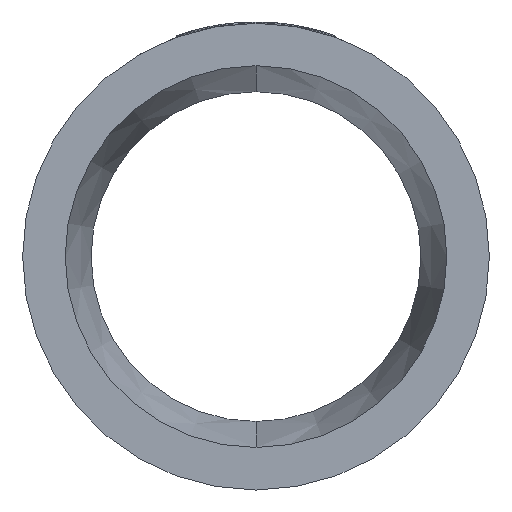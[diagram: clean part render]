
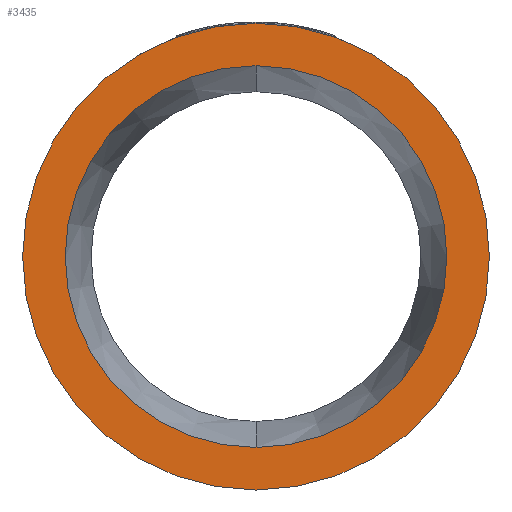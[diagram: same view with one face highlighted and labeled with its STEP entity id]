
A CAD part, left-side view. The second image highlights one B-rep face of the part: STEP entity #3435.
In plain terms, the highlighted planar face has unit normal (-1, 0, 0).
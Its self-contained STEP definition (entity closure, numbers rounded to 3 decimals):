
#3 = FACE_BOUND ( 'NONE', #861, .T. ) ;
#50 = FACE_OUTER_BOUND ( 'NONE', #2683, .T. ) ;
#164 = DIRECTION ( 'NONE',  ( 0., 0., 1. ) ) ;
#173 = DIRECTION ( 'NONE',  ( -1., 0., 0. ) ) ;
#175 = CARTESIAN_POINT ( 'NONE',  ( 0., 0., 0. ) ) ;
#189 = DIRECTION ( 'NONE',  ( 0., 0., 1. ) ) ;
#196 = AXIS2_PLACEMENT_3D ( 'NONE', #420, #414, #401 ) ;
#203 = DIRECTION ( 'NONE',  ( -1., 0., 0. ) ) ;
#208 = CARTESIAN_POINT ( 'NONE',  ( 0., 0., 0. ) ) ;
#210 = AXIS2_PLACEMENT_3D ( 'NONE', #175, #173, #164 ) ;
#226 = AXIS2_PLACEMENT_3D ( 'NONE', #208, #203, #189 ) ;
#250 = EDGE_CURVE ( 'NONE', #2444, #1006, #2194, .T. ) ;
#293 = VERTEX_POINT ( 'NONE', #2373 ) ;
#330 = CARTESIAN_POINT ( 'NONE',  ( 0., 0., -90. ) ) ;
#380 = ORIENTED_EDGE ( 'NONE', *, *, #895, .T. ) ;
#401 = DIRECTION ( 'NONE',  ( 0., 0., -1. ) ) ;
#414 = DIRECTION ( 'NONE',  ( 1., 0., 0. ) ) ;
#420 = CARTESIAN_POINT ( 'NONE',  ( 0., 73.6, 0. ) ) ;
#432 = EDGE_CURVE ( 'NONE', #662, #293, #2804, .T. ) ;
#492 = PLANE ( 'NONE',  #196 ) ;
#578 = ORIENTED_EDGE ( 'NONE', *, *, #432, .F. ) ;
#662 = VERTEX_POINT ( 'NONE', #1078 ) ;
#861 = EDGE_LOOP ( 'NONE', ( #3089, #578 ) ) ;
#883 = EDGE_CURVE ( 'NONE', #293, #662, #2600, .T. ) ;
#895 = EDGE_CURVE ( 'NONE', #1006, #2444, #1727, .T. ) ;
#1006 = VERTEX_POINT ( 'NONE', #330 ) ;
#1078 = CARTESIAN_POINT ( 'NONE',  ( 0., 0., -73.6 ) ) ;
#1266 = AXIS2_PLACEMENT_3D ( 'NONE', #1632, #1624, #1620 ) ;
#1460 = AXIS2_PLACEMENT_3D ( 'NONE', #2399, #2391, #2386 ) ;
#1620 = DIRECTION ( 'NONE',  ( 0., 0., 1. ) ) ;
#1624 = DIRECTION ( 'NONE',  ( -1., 0., 0. ) ) ;
#1632 = CARTESIAN_POINT ( 'NONE',  ( 0., 0., 0. ) ) ;
#1727 = CIRCLE ( 'NONE', #210, 90. ) ;
#2194 = CIRCLE ( 'NONE', #1460, 90. ) ;
#2373 = CARTESIAN_POINT ( 'NONE',  ( 0., 0., 73.6 ) ) ;
#2386 = DIRECTION ( 'NONE',  ( 0., 0., 1. ) ) ;
#2391 = DIRECTION ( 'NONE',  ( -1., 0., 0. ) ) ;
#2399 = CARTESIAN_POINT ( 'NONE',  ( 0., 0., 0. ) ) ;
#2444 = VERTEX_POINT ( 'NONE', #2951 ) ;
#2600 = CIRCLE ( 'NONE', #226, 73.6 ) ;
#2683 = EDGE_LOOP ( 'NONE', ( #2832, #380 ) ) ;
#2804 = CIRCLE ( 'NONE', #1266, 73.6 ) ;
#2832 = ORIENTED_EDGE ( 'NONE', *, *, #250, .T. ) ;
#2951 = CARTESIAN_POINT ( 'NONE',  ( 0., 0., 90. ) ) ;
#3089 = ORIENTED_EDGE ( 'NONE', *, *, #883, .F. ) ;
#3435 = ADVANCED_FACE ( 'NONE', ( #3, #50 ), #492, .F. ) ;
